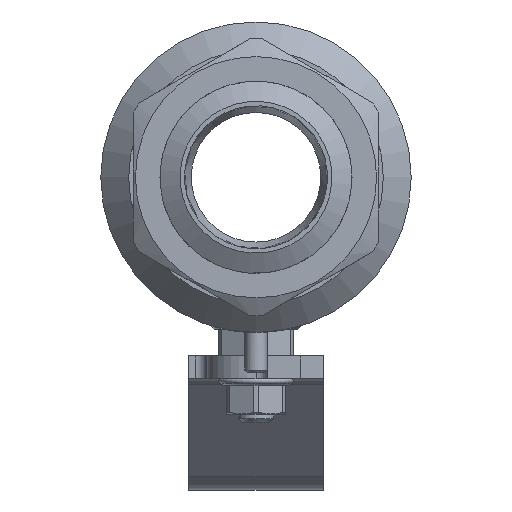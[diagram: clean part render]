
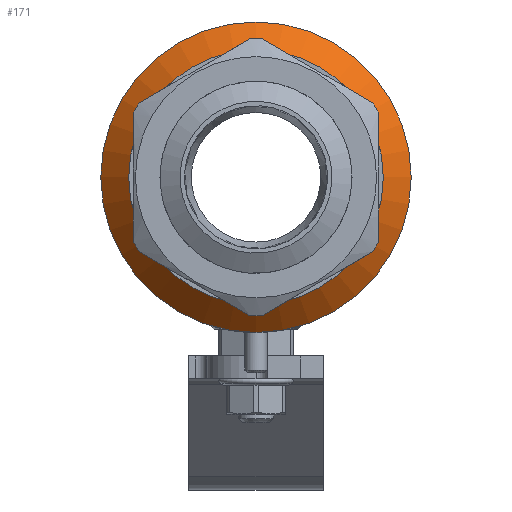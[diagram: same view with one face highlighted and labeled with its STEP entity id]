
A CAD part, left-side view. The second image highlights one B-rep face of the part: STEP entity #171.
In plain terms, the highlighted conical face has half-angle 45 degrees and reference radius 31.625 mm.
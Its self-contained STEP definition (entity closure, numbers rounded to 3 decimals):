
#171=ADVANCED_FACE('',(#1434),#1436,.T.);
#1434=FACE_OUTER_BOUND('',#1435,.T.);
#1435=EDGE_LOOP('',(#2693,#2694,#2695,#2696,#2697));
#1436=CONICAL_SURFACE('',#1437,31.625,0.785);
#1437=AXIS2_PLACEMENT_3D('',#1438,#1439,#1440);
#1438=CARTESIAN_POINT('',(-22.875,0.,0.));
#1439=DIRECTION('',(1.,0.,0.));
#1440=DIRECTION('',(0.,1.,0.));
#2693=ORIENTED_EDGE('',*,*,#3757,.F.);
#2694=ORIENTED_EDGE('',*,*,#3758,.T.);
#2695=ORIENTED_EDGE('',*,*,#3749,.T.);
#2696=ORIENTED_EDGE('',*,*,#3758,.F.);
#2697=ORIENTED_EDGE('',*,*,#3759,.F.);
#3749=EDGE_CURVE('',#4296,#4296,#4298,.T.);
#3757=EDGE_CURVE('',#4308,#4309,#4310,.T.);
#3758=EDGE_CURVE('',#4308,#4296,#4311,.T.);
#3759=EDGE_CURVE('',#4309,#4308,#4312,.T.);
#4296=VERTEX_POINT('',#6715);
#4298=CIRCLE('',#6719,34.75);
#4308=VERTEX_POINT('',#6812);
#4309=VERTEX_POINT('',#6813);
#4310=CIRCLE('',#6814,28.5);
#4311=LINE('',#6818,#6819);
#4312=CIRCLE('',#6821,28.5);
#6715=CARTESIAN_POINT('',(-19.75,-34.75,0.));
#6719=AXIS2_PLACEMENT_3D('',#6720,#6721,#6722);
#6720=CARTESIAN_POINT('',(-19.75,0.,0.));
#6721=DIRECTION('',(-1.,-0.,0.));
#6722=DIRECTION('',(0.,-1.,0.));
#6812=CARTESIAN_POINT('',(-26.,-28.5,0.));
#6813=CARTESIAN_POINT('',(-26.,0.,-28.5));
#6814=AXIS2_PLACEMENT_3D('',#6815,#6816,#6817);
#6815=CARTESIAN_POINT('',(-26.,0.,0.));
#6816=DIRECTION('',(-1.,-0.,0.));
#6817=DIRECTION('',(0.,-1.,0.));
#6818=CARTESIAN_POINT('',(-26.,-28.5,0.));
#6819=VECTOR('',#6820,1.);
#6820=DIRECTION('',(0.707,-0.707,0.));
#6821=AXIS2_PLACEMENT_3D('',#6822,#6823,#6824);
#6822=CARTESIAN_POINT('',(-26.,0.,0.));
#6823=DIRECTION('',(-1.,-0.,0.));
#6824=DIRECTION('',(0.,0.,-1.));
